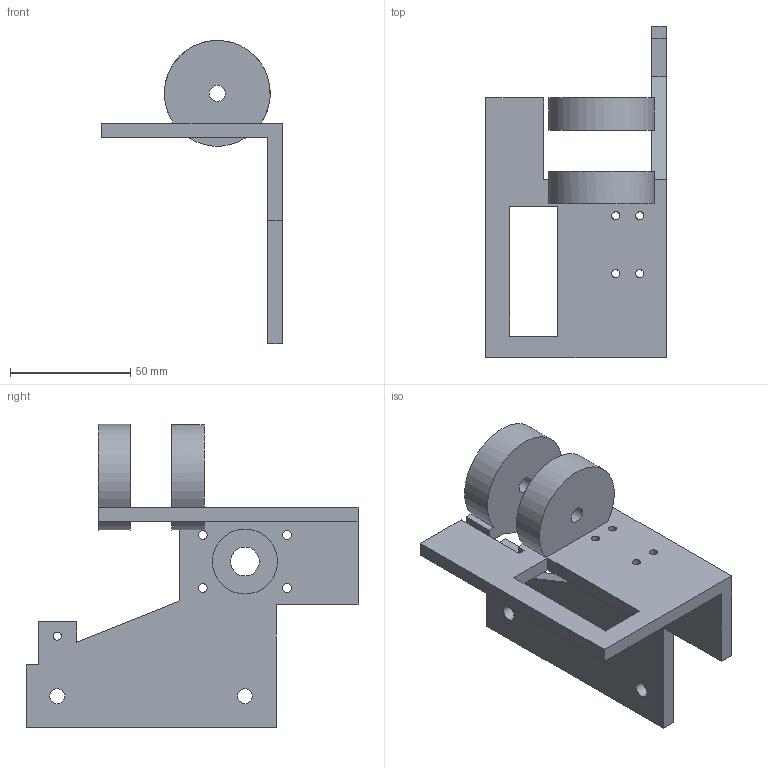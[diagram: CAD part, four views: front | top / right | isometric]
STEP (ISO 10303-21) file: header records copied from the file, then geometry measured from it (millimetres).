
FILE_DESCRIPTION(('Open CASCADE Model'),'2;1');
FILE_NAME('Open CASCADE Shape Model','2026-10-15T18:58:36',('Author'),( 'Open CASCADE'),'Open CASCADE STEP processor 7.9','Open CASCADE 7.9' ,'Unknown');
FILE_SCHEMA(('AUTOMOTIVE_DESIGN { 1 0 10303 214 1 1 1 1 }'));
Length unit declared in the file: millimetre
Products named in the file (3): Open CASCADE STEP translator 7.9 3; Open CASCADE STEP translator 7.9 3.1; Open CASCADE STEP translator 7.9 3.2
Assembly tree (2 placements, depth 2):
  Open CASCADE STEP translator 7.9 3
    Open CASCADE STEP translator 7.9 3.1
    Open CASCADE STEP translator 7.9 3.2
Bounding box: 75 x 138 x 125.97 mm (x, y, z)
Volume: 109543.2 mm3; surface area: 40426.7 mm2
Topology: 2 solids, 2 shells, 56 faces, 153 edges, 102 vertices
Faces by surface type: plane 36, cylinder 20
Full cylindrical faces by diameter (mm): 3.4 x5, 3.6 x4, 6.2 x2, 6.6 x2, 10 x1, 12 x1, 27 x1
Entity records: 3914 total; most frequent: CARTESIAN_POINT 833, DIRECTION 545, LINE 332, VECTOR 332, ORIENTED_EDGE 306, PCURVE 306, DEFINITIONAL_REPRESENTATION 306, EDGE_CURVE 153
